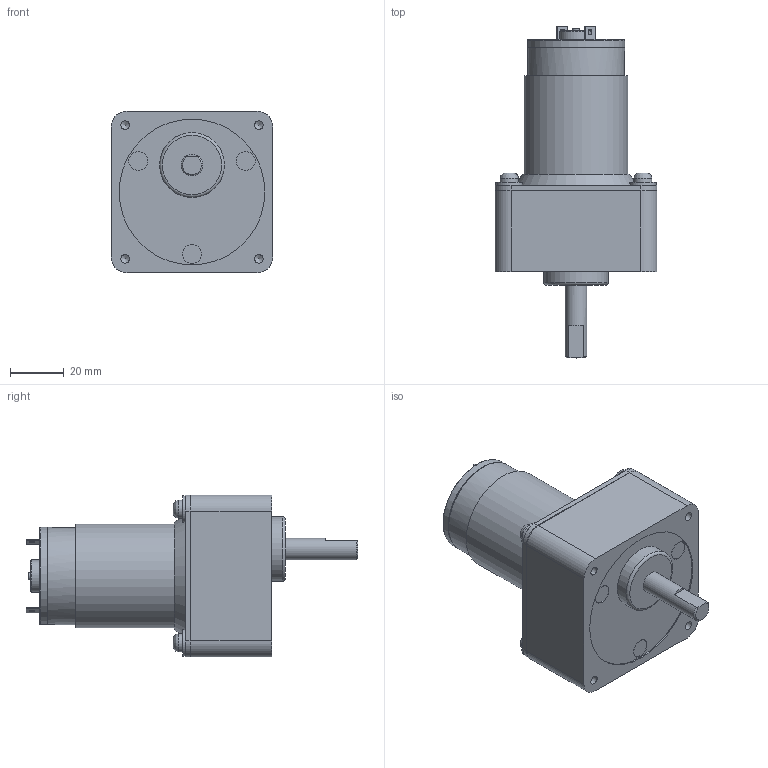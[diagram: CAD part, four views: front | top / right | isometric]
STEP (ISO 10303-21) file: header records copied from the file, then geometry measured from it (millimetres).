
FILE_DESCRIPTION((''),'2;1');
FILE_NAME('C:\Documents and Settings\SSEGAWA\デスクトップ\TP-3850A-CM-2.STP','2013-07-29T09:56:10',('SSEGAWA'),(''),'Autodesk Inventor 2010','Autodesk Inventor 2010','');
FILE_SCHEMA(('CONFIG_CONTROL_DESIGN'));
Length unit declared in the file: millimetre
Products named in the file (1): tp_3850a_cm_2_Shrinkwrap_1
Bounding box: 60 x 123 x 60 mm (x, y, z)
Volume: 179240 mm3; surface area: 23782.1 mm2
Topology: 1 solids, 4 shells, 124 faces, 270 edges, 177 vertices
Faces by surface type: plane 60, cylinder 35, bspline 22, torus 4, cone 3
Full cylindrical faces by diameter (mm): 2.5 x1, 3 x1, 4.5 x1, 6.8 x4, 7 x3, 8 x1, 9.8 x4, 12 x1, 24 x1, 35.6 x1, 36 x2, 54 x1
Entity records: 3526 total; most frequent: CARTESIAN_POINT 912, DIRECTION 512, ORIENTED_EDGE 420, EDGE_CURVE 210, AXIS2_PLACEMENT_3D 201, EDGE_LOOP 197, VERTEX_POINT 161, STYLED_ITEM 125
